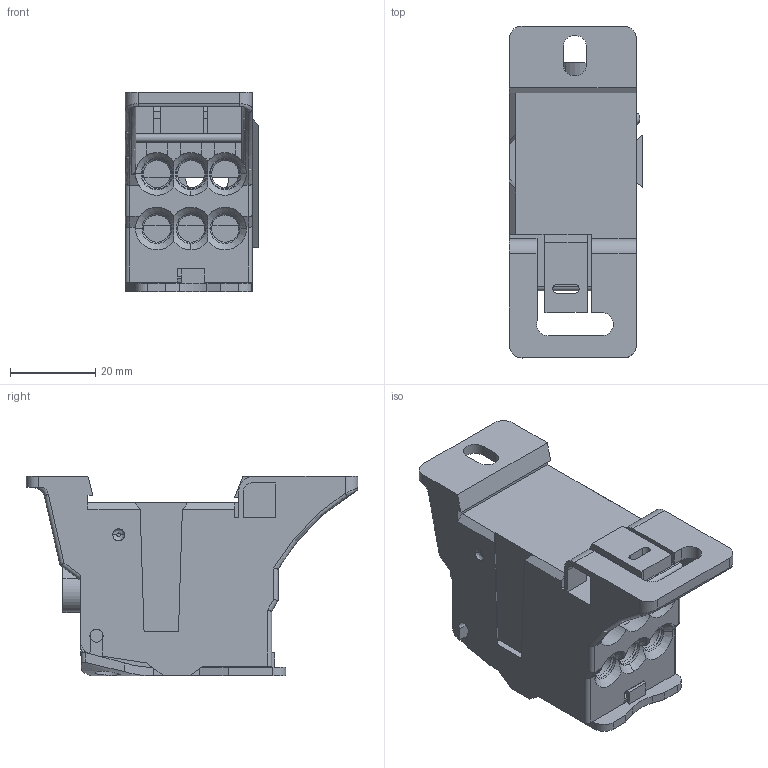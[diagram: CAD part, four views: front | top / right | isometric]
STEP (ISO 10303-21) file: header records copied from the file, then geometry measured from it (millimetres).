
FILE_DESCRIPTION(/* description */ (''),/* implementation_level */ '2;1');
FILE_NAME(/* name */ '6.stp',/* time_stamp */ '2019-06-12T23:45:51+08:00',/* author */ (''),/* organization */ (''),/* preprocessor_version */ 'ST-DEVELOPER v16.7',/* originating_system */ 'SIEMENS PLM Software NX 12.0',/* authorisation */ '');
FILE_SCHEMA (('AUTOMOTIVE_DESIGN { 1 0 10303 214 3 1 1 1 }'));
Length unit declared in the file: millimetre
Products named in the file (1): Admi32AC5160z42o
Bounding box: 31.3 x 77.9 x 46.85 mm (x, y, z)
Volume: 34017.9 mm3; surface area: 30237.9 mm2
Topology: 3 solids, 3 shells, 418 faces, 1256 edges, 826 vertices
Faces by surface type: plane 210, cylinder 143, cone 42, bspline 14, torus 9
Entity records: 17572 total; most frequent: CARTESIAN_POINT 4325, ORIENTED_EDGE 2512, DIRECTION 2305, EDGE_CURVE 1256, VERTEX_POINT 826, AXIS2_PLACEMENT_3D 785, LINE 735, VECTOR 735
